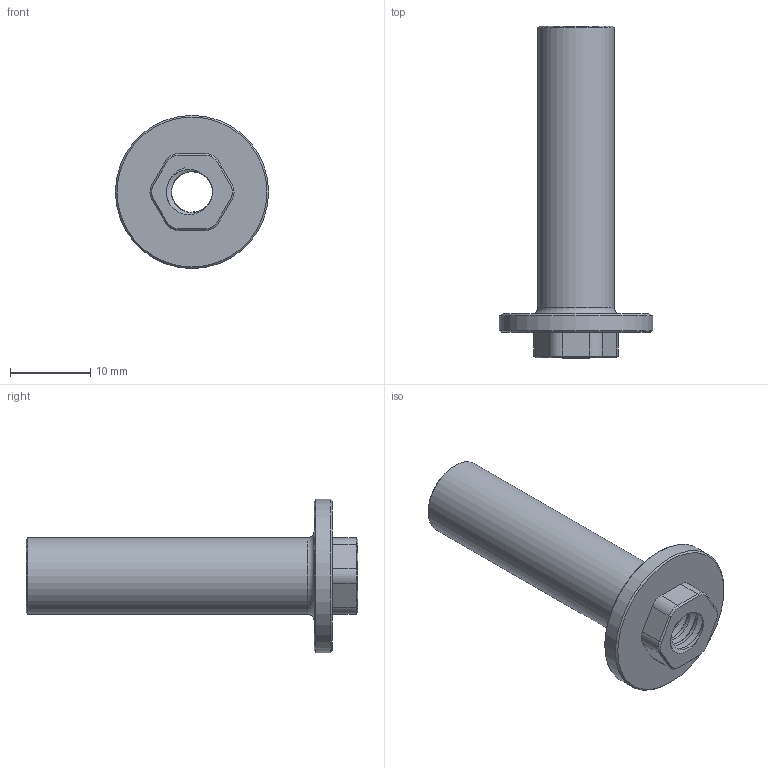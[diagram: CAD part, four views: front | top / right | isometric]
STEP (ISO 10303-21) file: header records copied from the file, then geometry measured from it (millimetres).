
FILE_DESCRIPTION(/* description */ ('STEP AP214'),/* implementation_level */ '2;1');
FILE_NAME(/* name */ 'BeeSpoke.step',/* time_stamp */ '2026-03-23T14:36:55-04:00',/* author */ (''),/* organization */ (''),/* preprocessor_version */ 'ST-DEVELOPER v20.1',/* originating_system */ 'Autodesk Translation Framework v14.24.0.0',/* authorisation */ '');
FILE_SCHEMA (('AUTOMOTIVE_DESIGN { 1 0 10303 214 3 1 1 }'));
Length unit declared in the file: inch
Products named in the file (1): 2026-03-23-18-33-54-342
Bounding box: 19.05 x 41.27 x 19.05 mm (x, y, z)
Volume: 2425.7 mm3; surface area: 2919.9 mm2
Topology: 1 solids, 1 shells, 103 faces, 283 edges, 184 vertices
Faces by surface type: cylinder 71, plane 18, cone 9, bspline 4, torus 1
Full cylindrical faces by diameter (mm): 5.116 x9, 6.35 x9, 9.525 x1, 19.05 x1
Entity records: 6782 total; most frequent: CARTESIAN_POINT 4367, ORIENTED_EDGE 566, DIRECTION 386, EDGE_CURVE 283, VERTEX_POINT 184, AXIS2_PLACEMENT_3D 139, B_SPLINE_CURVE_WITH_KNOTS 136, LINE 108
